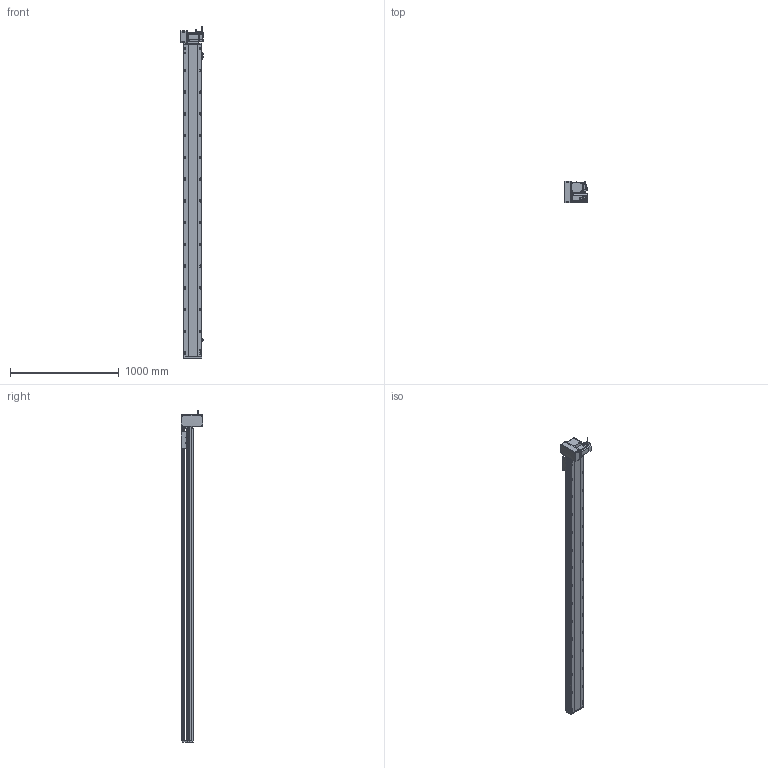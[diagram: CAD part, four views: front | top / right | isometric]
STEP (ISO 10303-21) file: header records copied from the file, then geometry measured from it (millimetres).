
FILE_DESCRIPTION (( 'STEP AP214' ), '1' );
FILE_NAME ('RTB17S-XX-2600-LM-M75-C4.STEP', '2025-12-12T00:47:28', ( '' ), ( '' ), 'SwSTEP 2.0', 'SolidWorks 2018', '' );
FILE_SCHEMA (( 'AUTOMOTIVE_DESIGN' ));
Length unit declared in the file: millimetre
Products named in the file (15): RTB22S-GY-017P^RTB17S-LM-々湍釱蚾饜-750W_RTB17S-XX-XX-LM-M75-C4; RTB17S-賑釱^RTB17S-XX-XX-LM-M75-C4; RTB17S-LM-々湍釱蚾饜-750W^RTB17S-XX-XX-LM-M75-C4; RTB17S-L-004-賑釱^RTB17S-賑釱_RTB17S-XX-XX-LM-M75-C4; RTB17S-L-001-耜醱啣^RTB17S-XX-XX-LM-M75-C4; RTB17S-L-014-T20-P75--々湍釱^RTB17S-LM-々湍釱蚾饜-750W_RTB17S-XX-XX-LM-M75-C4; RTB17-R-011菁釱^RTB17S-XX-XX-LM-M75-C4; 750W萇儂^RTB17S-XX-XX-LM-M75-C4; RTB22S-GY-018P^RTB17S-LM-々湍釱蚾饜-750W_RTB17S-XX-XX-LM-M75-C4; RTB22S-GY-005P^RTB17S-LM-々湍釱蚾饜-750W_RTB17S-XX-XX-LM-M75-C4; RTB17S-L-007奻裔^RTB17S-XX-XX-LM-M75-C4; RTB17S-XX-2600-LM-M75-C4; EE672^RTB17S-XX-XX-LM-M75-C4; RTH13-BL-012覜茼え俋离^RTB17S-賑釱_RTB17S-XX-XX-LM-M75-C4; RTB22S-GY-008-M75--萇儂啣^RTB17S-LM-々湍釱蚾饜-750W_RTB17S-XX-XX-LM-M75-C4
Assembly tree (17 placements, depth 3):
  RTB17S-XX-2600-LM-M75-C4
    RTB17-R-011菁釱^RTB17S-XX-XX-LM-M75-C4
    EE672^RTB17S-XX-XX-LM-M75-C4  x3
    RTB17S-L-001-耜醱啣^RTB17S-XX-XX-LM-M75-C4
    RTB17S-賑釱^RTB17S-XX-XX-LM-M75-C4
      RTB17S-L-004-賑釱^RTB17S-賑釱_RTB17S-XX-XX-LM-M75-C4
      RTH13-BL-012覜茼え俋离^RTB17S-賑釱_RTB17S-XX-XX-LM-M75-C4
    RTB17S-L-007奻裔^RTB17S-XX-XX-LM-M75-C4
    750W萇儂^RTB17S-XX-XX-LM-M75-C4
    RTB17S-LM-々湍釱蚾饜-750W^RTB17S-XX-XX-LM-M75-C4
      RTB17S-L-014-T20-P75--々湍釱^RTB17S-LM-々湍釱蚾饜-750W_RTB17S-XX-XX-LM-M75-C4
      RTB22S-GY-005P^RTB17S-LM-々湍釱蚾饜-750W_RTB17S-XX-XX-LM-M75-C4
      RTB22S-GY-017P^RTB17S-LM-々湍釱蚾饜-750W_RTB17S-XX-XX-LM-M75-C4  x2
      RTB22S-GY-008-M75--萇儂啣^RTB17S-LM-々湍釱蚾饜-750W_RTB17S-XX-XX-LM-M75-C4
      RTB22S-GY-018P^RTB17S-LM-々湍釱蚾饜-750W_RTB17S-XX-XX-LM-M75-C4
Bounding box: 210.4 x 200 x 3052.2 mm (x, y, z)
Volume: 22205614.4 mm3; surface area: 4035346.5 mm2
Topology: 17 solids, 17 shells, 2217 faces, 6214 edges, 4022 vertices
Faces by surface type: plane 986, cylinder 815, bspline 294, cone 110, sphere 8, torus 4
Entity records: 64246 total; most frequent: CARTESIAN_POINT 19078, ORIENTED_EDGE 9272, DIRECTION 8582, EDGE_CURVE 4636, AXIS2_PLACEMENT_3D 3042, VERTEX_POINT 3026, LINE 2498, VECTOR 2498
